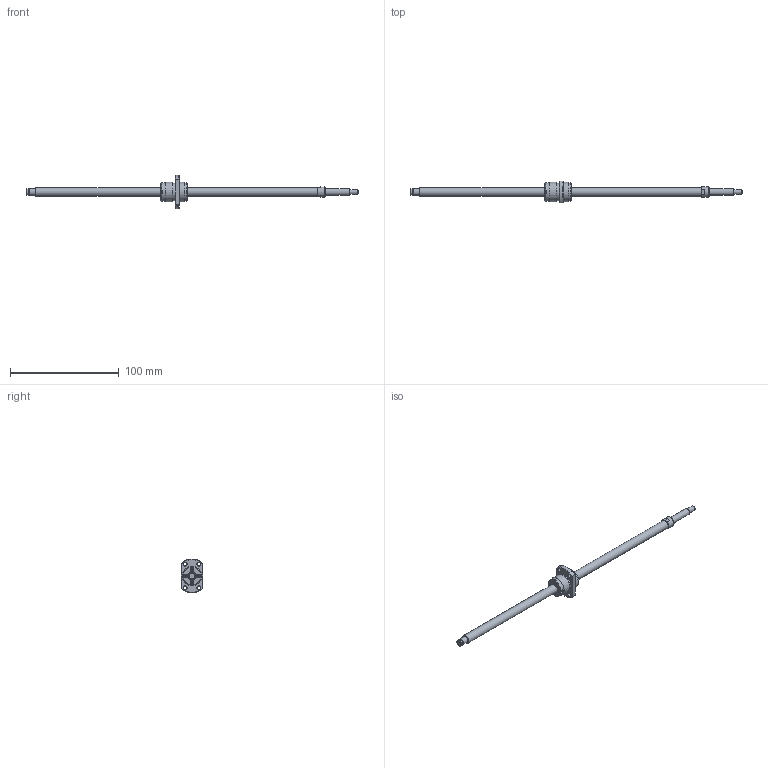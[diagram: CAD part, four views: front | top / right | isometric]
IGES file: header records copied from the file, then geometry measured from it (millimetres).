
Start section: Data from Parasolid IGES Translator 26.0.171, Copyright(c) 2006 Siemens PLM Software. All Rights Reserved.
Global section: file name: BNK0810-3GT+305LC5Y(139).igs; native system: By Siemens PLM Incorporated; preprocessor: XPlus GENERIC/IGES 26.0.171; author: Noname; organization: Noname; date: 20240709.085647; units: millimetre
Bounding box: 305 x 20 x 31 mm (x, y, z)
Surface area: 10906.4 mm2 (no closed solid volume)
Topology: 0 solids, 0 shells, 116 faces, 550 edges, 507 vertices
Faces by surface type: extrusion 66, revolution 50
